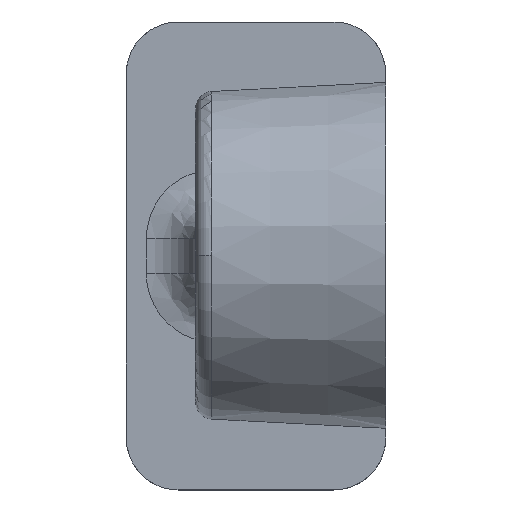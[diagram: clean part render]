
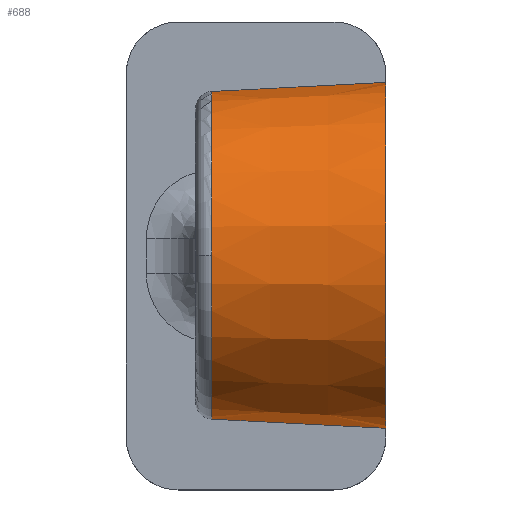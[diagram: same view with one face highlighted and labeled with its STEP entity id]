
A CAD part, top view. The second image highlights one B-rep face of the part: STEP entity #688.
In plain terms, the highlighted conical face has half-angle 3 degrees and reference radius 100 mm.
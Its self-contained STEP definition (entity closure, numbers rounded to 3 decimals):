
#11 = CARTESIAN_POINT ( 'NONE',  ( -25.523, 0., 240. ) ) ;
#113 = VERTEX_POINT ( 'NONE', #2618 ) ;
#123 = ORIENTED_EDGE ( 'NONE', *, *, #1416, .F. ) ;
#209 = DIRECTION ( 'NONE',  ( 0., 0., 1. ) ) ;
#218 = CIRCLE ( 'NONE', #1509, 100. ) ;
#310 = VERTEX_POINT ( 'NONE', #2525 ) ;
#374 = ORIENTED_EDGE ( 'NONE', *, *, #2141, .T. ) ;
#458 = EDGE_CURVE ( 'NONE', #1980, #310, #218, .T. ) ;
#507 = CARTESIAN_POINT ( 'NONE',  ( 75., 100., 240. ) ) ;
#520 = VECTOR ( 'NONE', #2497, 1000. ) ;
#538 = DIRECTION ( 'NONE',  ( 1., 0., 0. ) ) ;
#660 = CARTESIAN_POINT ( 'NONE',  ( 75., -100., 240. ) ) ;
#688 = ADVANCED_FACE ( 'NONE', ( #844 ), #2361, .T. ) ;
#705 = DIRECTION ( 'NONE',  ( 0.999, 0.052, 0. ) ) ;
#750 = ORIENTED_EDGE ( 'NONE', *, *, #2637, .T. ) ;
#774 = AXIS2_PLACEMENT_3D ( 'NONE', #898, #1109, #2542 ) ;
#844 = FACE_OUTER_BOUND ( 'NONE', #2607, .T. ) ;
#877 = CIRCLE ( 'NONE', #927, 94.732 ) ;
#898 = CARTESIAN_POINT ( 'NONE',  ( 75., 0., 240. ) ) ;
#927 = AXIS2_PLACEMENT_3D ( 'NONE', #11, #1432, #209 ) ;
#998 = DIRECTION ( 'NONE',  ( 1., 0., 0. ) ) ;
#1045 = LINE ( 'NONE', #660, #520 ) ;
#1109 = DIRECTION ( 'NONE',  ( 1., 0., 0. ) ) ;
#1202 = EDGE_CURVE ( 'NONE', #2033, #113, #1782, .T. ) ;
#1232 = VERTEX_POINT ( 'NONE', #1417 ) ;
#1404 = VECTOR ( 'NONE', #705, 1000. ) ;
#1416 = EDGE_CURVE ( 'NONE', #2033, #1980, #1942, .T. ) ;
#1417 = CARTESIAN_POINT ( 'NONE',  ( -25.523, -94.732, 240. ) ) ;
#1432 = DIRECTION ( 'NONE',  ( 1., 0., 0. ) ) ;
#1509 = AXIS2_PLACEMENT_3D ( 'NONE', #1740, #538, #1946 ) ;
#1613 = CARTESIAN_POINT ( 'NONE',  ( 75., 100., 240. ) ) ;
#1740 = CARTESIAN_POINT ( 'NONE',  ( 75., 0., 240. ) ) ;
#1773 = AXIS2_PLACEMENT_3D ( 'NONE', #2206, #998, #2418 ) ;
#1782 = CIRCLE ( 'NONE', #1773, 94.732 ) ;
#1942 = LINE ( 'NONE', #507, #1404 ) ;
#1946 = DIRECTION ( 'NONE',  ( 0., 1., 0. ) ) ;
#1949 = ORIENTED_EDGE ( 'NONE', *, *, #1202, .T. ) ;
#1980 = VERTEX_POINT ( 'NONE', #1613 ) ;
#2029 = CARTESIAN_POINT ( 'NONE',  ( -25.523, 94.732, 240. ) ) ;
#2033 = VERTEX_POINT ( 'NONE', #2029 ) ;
#2141 = EDGE_CURVE ( 'NONE', #1232, #310, #1045, .T. ) ;
#2206 = CARTESIAN_POINT ( 'NONE',  ( -25.523, 0., 240. ) ) ;
#2330 = ORIENTED_EDGE ( 'NONE', *, *, #458, .F. ) ;
#2361 = CONICAL_SURFACE ( 'NONE', #774, 100., 0.052 ) ;
#2418 = DIRECTION ( 'NONE',  ( 0., 0., 1. ) ) ;
#2497 = DIRECTION ( 'NONE',  ( 0.999, -0.052, 0. ) ) ;
#2525 = CARTESIAN_POINT ( 'NONE',  ( 75., -100., 240. ) ) ;
#2542 = DIRECTION ( 'NONE',  ( 0., 1., 0. ) ) ;
#2607 = EDGE_LOOP ( 'NONE', ( #1949, #750, #374, #2330, #123 ) ) ;
#2618 = CARTESIAN_POINT ( 'NONE',  ( -25.523, 0., 334.732 ) ) ;
#2637 = EDGE_CURVE ( 'NONE', #113, #1232, #877, .T. ) ;
